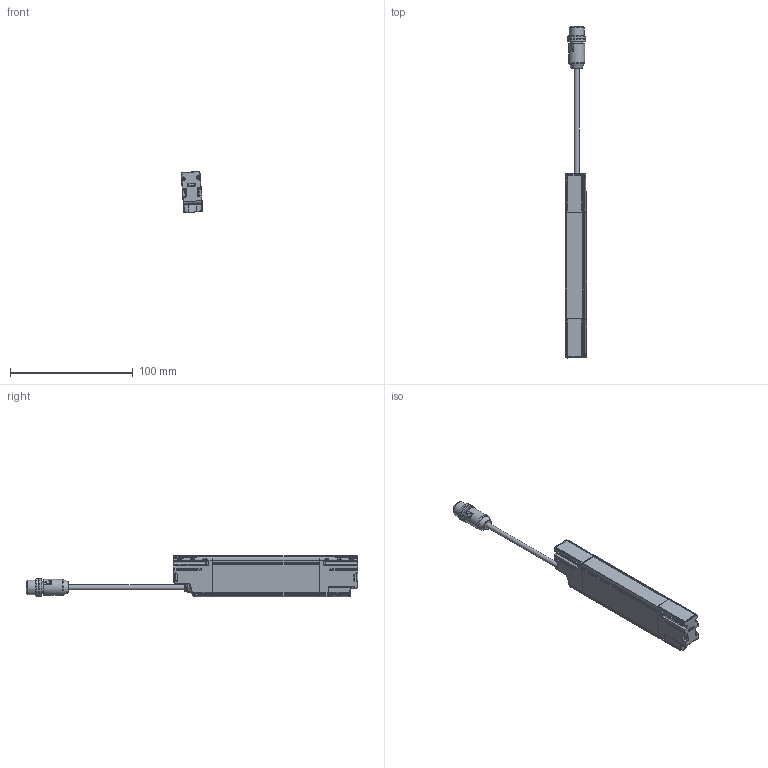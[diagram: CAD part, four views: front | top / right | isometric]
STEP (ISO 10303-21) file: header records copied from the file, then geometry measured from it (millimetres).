
FILE_DESCRIPTION(/* description */ (''),/* implementation_level */ '2;1');
FILE_NAME(/* name */ 'DSD-0622.stp',/* time_stamp */ '2015-02-23T16:56:06+01:00',/* author */ (''),/* organization */ (''),/* preprocessor_version */ 'ST-DEVELOPER v11',/* originating_system */ 'SIEMENS PLM Software NX 7.5',/* authorisation */ '');
FILE_SCHEMA (('AUTOMOTIVE_DESIGN { 1 0 10303 214 1 1 1 1 }'));
Length unit declared in the file: millimetre
Products named in the file (1): AP008098_00
Bounding box: 17.36 x 270.24 x 33.46 mm (x, y, z)
Surface area: 21953.9 mm2 (no closed solid volume)
Topology: 0 solids, 48 shells, 1147 faces, 3737 edges, 2520 vertices
Faces by surface type: cylinder 409, plane 336, bspline 155, torus 123, sphere 71, cone 53
Full cylindrical faces by diameter (mm): 1 x5, 1.2 x2, 1.6 x2, 2.6 x6, 4 x1, 8.3 x1, 9.4 x1, 10.4 x1, 12 x1, 13 x1, 13.5 x1, 14.5 x2
Entity records: 50690 total; most frequent: CARTESIAN_POINT 19008, DIRECTION 6763, ORIENTED_EDGE 5861, EDGE_CURVE 3589, AXIS2_PLACEMENT_3D 2558, VERTEX_POINT 2476, LINE 1647, VECTOR 1647
